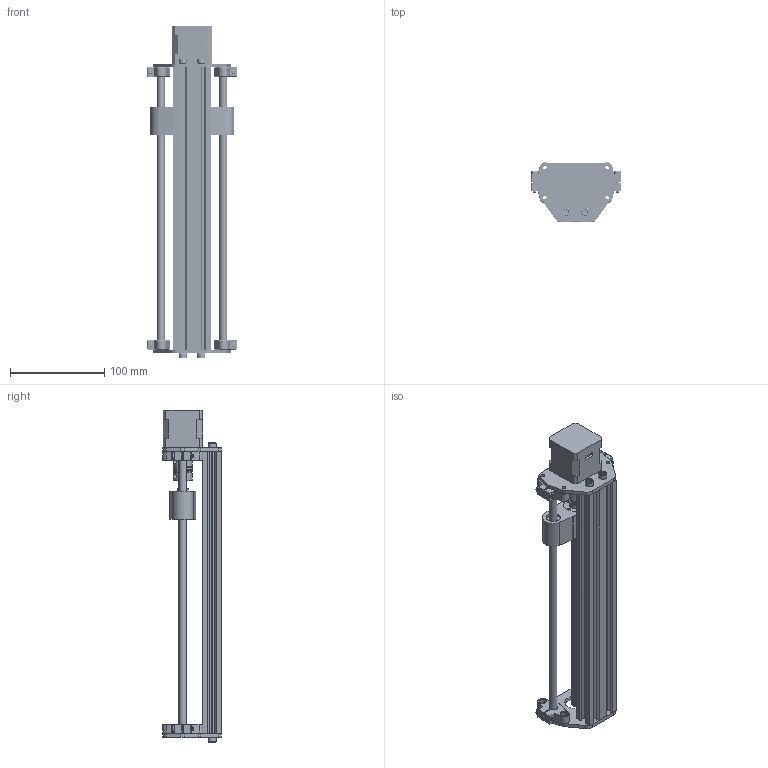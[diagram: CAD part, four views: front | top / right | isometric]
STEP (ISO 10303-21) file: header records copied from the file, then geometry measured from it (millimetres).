
FILE_DESCRIPTION(/* description */ ('','CAx-IF Rec.Pracs.---Representation and Presentation of Product Manufacturing Information (PMI)---4.0---2014-10-13'),/* implementation_level */ '2;1');
FILE_NAME(/* name */ 'Week2 CAD Stepper Test Bed.step',/* time_stamp */ '2025-02-04T16:14:20+03:00',/* author */ (''),/* organization */ (''),/* preprocessor_version */ 'ST-DEVELOPER v20',/* originating_system */ 'Autodesk Translation Framework v13.20.0.188',/* authorisation */ '');
FILE_SCHEMA (('AP242_MANAGED_MODEL_BASED_3D_ENGINEERING_MIM_LF { 1 0 10303 442 1 1 4 }'));
Products named in the file (13): Week2 CAD Stepper Test Bed; 2040 Aluminim profile; Component2; nema 17 stepper motor; Felxible Coupling; Component3; SHF8; Component4; Linear_rod_300mm.SLDPRT; 91290A228_NO THREADS_Alloy Steel Socket Head Screw; Lead Screw Nut Housing; LM8UU; M8 Screw rod brass nut
Assembly tree (24 placements, depth 3):
  Week2 CAD Stepper Test Bed
    2040 Aluminim profile
    Component2
    nema 17 stepper motor
    Felxible Coupling
    SHF8  x4
    Component3
    Component4  x2
    Linear_rod_300mm.SLDPRT
    91290A228_NO THREADS_Alloy Steel Socket Head Screw  x8
    Lead Screw Nut Housing
      LM8UU  x2
      M8 Screw rod brass nut
Bounding box: 95.3 x 62.65 x 353 mm (x, y, z)
Volume: 322621.7 mm3; surface area: 192593.7 mm2
Topology: 28 solids, 28 shells, 1718 faces, 4351 edges, 2801 vertices
Faces by surface type: cylinder 738, plane 562, bspline 288, cone 109, torus 13, sphere 8
Full cylindrical faces by diameter (mm): 2.013 x2, 2.459 x22, 3 x29, 3.242 x36, 4 x62, 4.2 x4, 5 x9, 5.5 x2, 6 x148, 6.8 x8, 7 x18, 8 x169, 8.5 x8, 10 x1, 12 x2, 12.1 x1, 14 x4, 15 x6, 15.05 x2, 20 x5, 22 x1, 22.5 x2, 25 x1, 25.3 x1
Entity records: 194048 total; most frequent: CARTESIAN_POINT 165316, ORIENTED_EDGE 6880, DIRECTION 4242, EDGE_CURVE 3440, VERTEX_POINT 2250, EDGE_LOOP 1500, LINE 1446, VECTOR 1446
